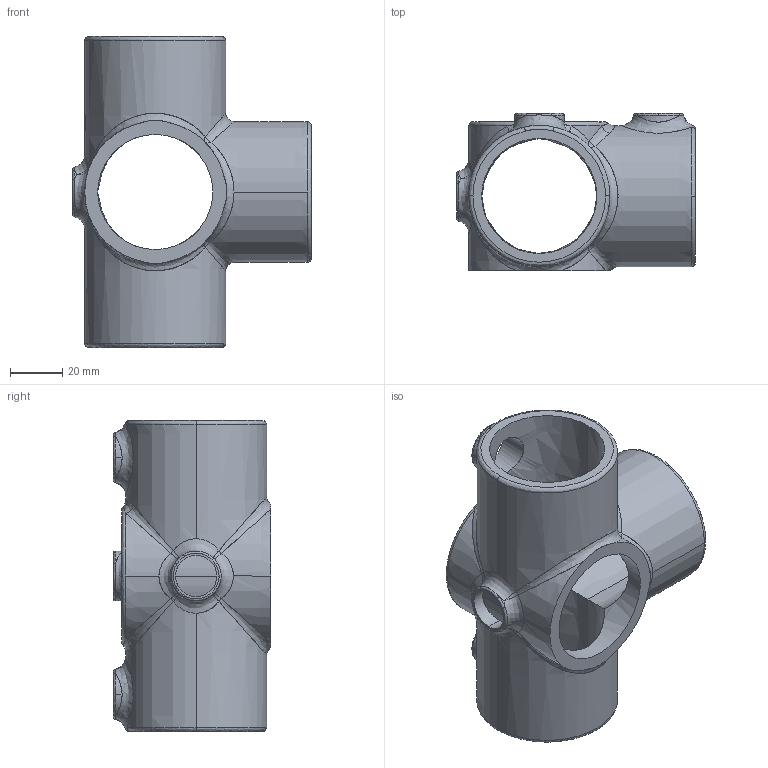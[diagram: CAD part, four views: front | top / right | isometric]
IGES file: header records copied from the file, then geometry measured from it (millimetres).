
Global section: file name: C:\Documents and Settings\Administrator\Desktop\Transfer Temp\kk35-7.igs; native system: AutoDesk Inventor R2.0 ; preprocessor: AutoDesk Inventor Iges Exporter R2.0; author: No Author specified; organization: No Organization specified; date: 20020101.142516; units: inch
Bounding box: 91.69 x 60.33 x 119.38 mm (x, y, z)
Surface area: 47167.6 mm2 (no closed solid volume)
Topology: 0 solids, 0 shells, 122 faces, 645 edges, 641 vertices
Faces by surface type: bspline 69, revolution 53
